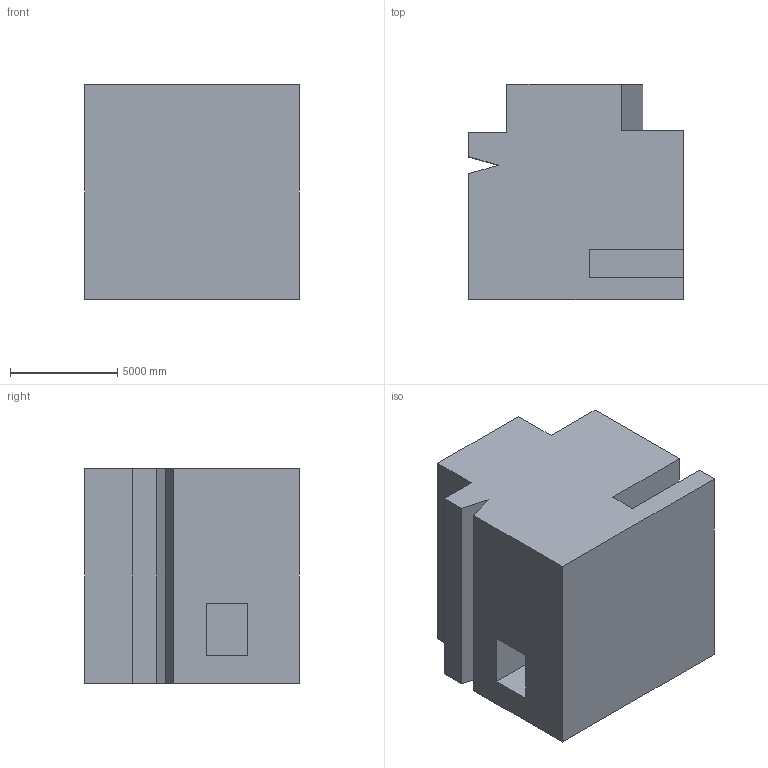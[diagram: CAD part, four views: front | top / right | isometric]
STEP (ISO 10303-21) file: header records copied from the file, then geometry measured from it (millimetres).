
FILE_DESCRIPTION (( 'STEP AP203' ), '1' );
FILE_NAME ('1549.STEP', '2022-08-18T15:43:53', ( 'user' ), ( '' ), 'SwSTEP 2.0', 'SolidWorks 2021', '' );
FILE_SCHEMA (( 'CONFIG_CONTROL_DESIGN' ));
Length unit declared in the file: centimetre
Products named in the file (1): 1549
Bounding box: 10000 x 10000 x 10000 mm (x, y, z)
Volume: 840134733269.2 mm3; surface area: 718302270.6 mm2
Topology: 1 solids, 1 shells, 30 faces, 78 edges, 52 vertices
Faces by surface type: plane 30
Entity records: 979 total; most frequent: CARTESIAN_POINT 161, ORIENTED_EDGE 156, DIRECTION 140, EDGE_CURVE 78, VECTOR 78, LINE 78, VERTEX_POINT 52, EDGE_LOOP 32
